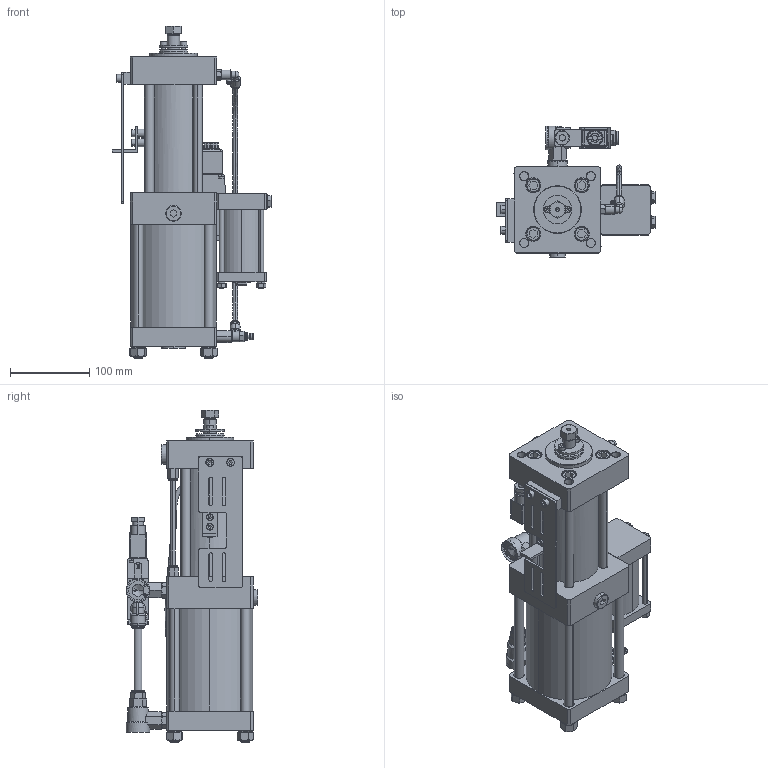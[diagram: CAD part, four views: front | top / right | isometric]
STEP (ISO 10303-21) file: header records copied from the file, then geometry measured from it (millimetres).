
FILE_DESCRIPTION (( 'STEP AP203' ), '1' );
FILE_NAME ('PCT2 10036 VC13.STEP', '2017-12-05T06:31:35', ( '' ), ( '' ), 'SwSTEP 2.0', 'SolidWorks 2015', '' );
FILE_SCHEMA (( 'CONFIG_CONTROL_DESIGN' ));
Length unit declared in the file: millimetre
Products named in the file (39): INT TUBE; PCT2 10036 VC13; 18Janatics-Male elbow_Male threaded nipple_Dia 6 x 18; Janatics-WN015152WN015152_WN015152; hexagon fit bolt_is_IS 3640 - M8 x 25 x 14.5-N; INT FEC; 18Janatics-Male elbow_elbow_DIA 6; Janatics-WN015151WN015151_WN015151; QEV; INT TR; 18Janatics-Male elbow_Collet cap_DIA 6; DC VALVE-Janatics-DEFAULT_DS255SR61; (normal) internal_is_IS 3075(Part2) NI- 26; spring lock washer 6735_is_IS 6735- 6; PCT CYL_PCT2 10036 VC13; 1 8 BSP FCV-Janatics-GR2_GR1105006; Janatics-Male elbow_elbow_DIA 10; 1 4 BSP QEV; hexagon nut_is_IS 1363-2 - M6-N; socket head cap screw_is_IS 2269 - M5 x 8-N; Part3^PCT; Janatics-Male elbow_Collet cap_DIA 10; Janatics-Male connector_housing MC_WP2110650; 3 8 BSP PLUG; socket head cap screw_is_IS 2269 - M6 x 10-N; Part4^PCT; Janatics-Male elbow_Male threaded nipple_Dia 10 x 14; Janatics-Male connector_Collet cap_DIA 6; SILENCER; INT REC; spring lock washer 6735_is_IS 6735- 12; Janatics-Male elbow_Male elbow; 1 8 BSP PU 6_Janatics-Male connector_Male connector; CONTAINER PRA-03; GASKET; hexagon nut style 1_is_IS 1364-3 - M12-W-N; Part1^PCT; Part2^PCT; plain washer (type a)_is_IS 2016 A- 9
Assembly tree (69 placements, depth 3):
  PCT2 10036 VC13
    PCT CYL_PCT2 10036 VC13
    socket head cap screw_is_IS 2269 - M5 x 8-N  x4
    socket head cap screw_is_IS 2269 - M6 x 10-N  x2
    CONTAINER PRA-03
      INT REC
      GASKET  x2
      INT TUBE
      INT FEC
      INT TR  x4
      spring lock washer 6735_is_IS 6735- 6  x4
      hexagon nut_is_IS 1363-2 - M6-N  x4
      3 8 BSP PLUG
      SILENCER
    plain washer (type a)_is_IS 2016 A- 9  x2
    hexagon fit bolt_is_IS 3640 - M8 x 25 x 14.5-N  x2
    1 4 BSP QEV
      QEV
      (normal) internal_is_IS 3075(Part2) NI- 26
    QEV
    1 8 BSP PU 6_Janatics-Male connector_Male connector  x2
      Janatics-Male connector_housing MC_WP2110650
      Janatics-Male connector_Collet cap_DIA 6
    Part2^PCT
    Janatics-WN015152WN015152_WN015152  x2
    Janatics-WN015151WN015151_WN015151
    DC VALVE-Janatics-DEFAULT_DS255SR61
    (normal) internal_is_IS 3075(Part2) NI- 26
    Janatics-Male elbow_Male elbow
      Janatics-Male elbow_elbow_DIA 10
      Janatics-Male elbow_Collet cap_DIA 10
      Janatics-Male elbow_Male threaded nipple_Dia 10 x 14
    Janatics-Male elbow_Collet cap_DIA 10  x2
    Janatics-Male elbow_Male threaded nipple_Dia 10 x 14  x2
    Part1^PCT
    SILENCER  x2
    18Janatics-Male elbow_Male threaded nipple_Dia 6 x 18
    18Janatics-Male elbow_elbow_DIA 6
    18Janatics-Male elbow_Collet cap_DIA 6
    1 8 BSP FCV-Janatics-GR2_GR1105006
    Part4^PCT
    spring lock washer 6735_is_IS 6735- 12  x4
    hexagon nut style 1_is_IS 1364-3 - M12-W-N  x4
  Part3^PCT
Bounding box: 200.6 x 166 x 418 mm (x, y, z)
Volume: 3470056.8 mm3; surface area: 515023.9 mm2
Topology: 87 solids, 88 shells, 4351 faces, 10952 edges, 6921 vertices
Faces by surface type: plane 1938, cylinder 1350, cone 726, torus 177, bspline 145, sphere 15
Entity records: 107580 total; most frequent: CARTESIAN_POINT 25777, ORIENTED_EDGE 16112, DIRECTION 15997, EDGE_CURVE 8056, AXIS2_PLACEMENT_3D 5848, VERTEX_POINT 5150, VECTOR 4301, LINE 4301
